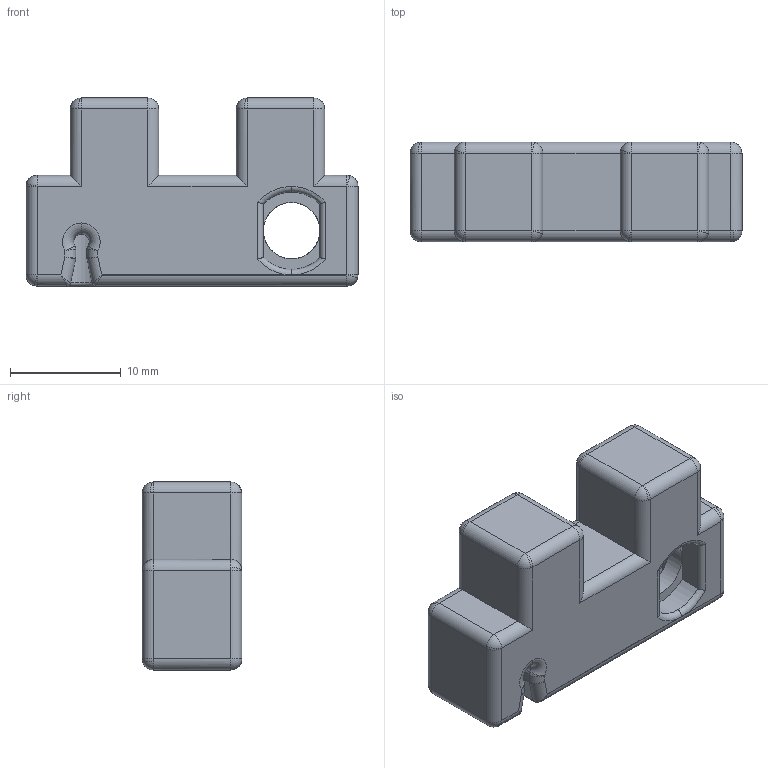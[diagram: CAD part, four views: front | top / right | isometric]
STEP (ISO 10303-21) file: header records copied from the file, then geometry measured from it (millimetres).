
FILE_DESCRIPTION(('CATIA V5 STEP Exchange'),'2;1');
FILE_NAME('C:\Users\Administrator\Desktop\20220215\自适应连接件--高精树脂.stp','2022-02-15T07:50:46+00:00',('none'),('none'),'CATIA Version 5 Release 20 GA (IN-10)','CATIA V5 STEP AP214','none');
FILE_SCHEMA(('AUTOMOTIVE_DESIGN { 1 0 10303 214 1 1 1 1 }'));
Length unit declared in the file: millimetre
Products named in the file (1): lian jie jian
Bounding box: 30 x 9 x 17 mm (x, y, z)
Volume: 3273.1 mm3; surface area: 1936.6 mm2
Topology: 1 solids, 1 shells, 147 faces, 354 edges, 168 vertices
Faces by surface type: cylinder 61, sphere 36, plane 28, bspline 13, torus 9
Entity records: 4410 total; most frequent: CARTESIAN_POINT 1477, ORIENTED_EDGE 624, DIRECTION 512, EDGE_CURVE 312, AXIS2_PLACEMENT_3D 257, VERTEX_POINT 168, EDGE_LOOP 152, ADVANCED_FACE 147
